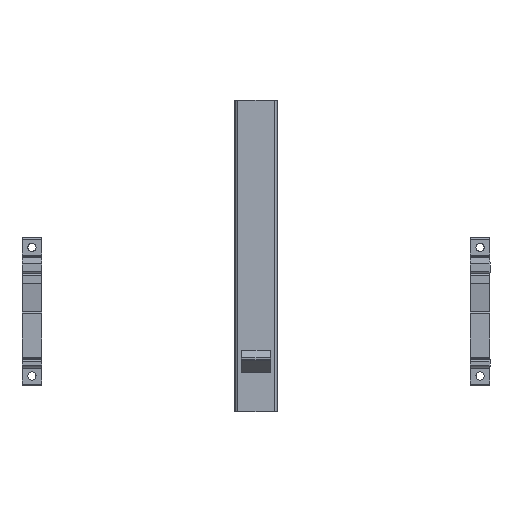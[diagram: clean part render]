
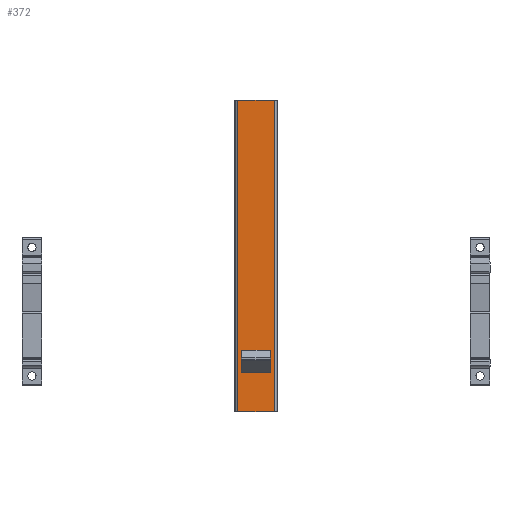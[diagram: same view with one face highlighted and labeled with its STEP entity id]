
A CAD part, top view. The second image highlights one B-rep face of the part: STEP entity #372.
In plain terms, the highlighted planar face has unit normal (0, 0, 1).
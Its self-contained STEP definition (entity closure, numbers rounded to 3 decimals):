
#33 = DIRECTION ( 'NONE',  ( 0., -1., 0. ) ) ;
#60 = CARTESIAN_POINT ( 'NONE',  ( -6.856, 125.863, 5.4 ) ) ;
#134 = VECTOR ( 'NONE', #3908, 1000. ) ;
#150 = LINE ( 'NONE', #1840, #4252 ) ;
#285 = PLANE ( 'NONE',  #4249 ) ;
#363 = VECTOR ( 'NONE', #3379, 1000. ) ;
#372 = ADVANCED_FACE ( 'NONE', ( #2358, #2850 ), #285, .T. ) ;
#413 = LINE ( 'NONE', #2103, #3192 ) ;
#428 = ORIENTED_EDGE ( 'NONE', *, *, #1223, .F. ) ;
#530 = CARTESIAN_POINT ( 'NONE',  ( -5.5, 15.067, 5.4 ) ) ;
#567 = CARTESIAN_POINT ( 'NONE',  ( 6.856, 0., 5.4 ) ) ;
#593 = VERTEX_POINT ( 'NONE', #530 ) ;
#678 = EDGE_CURVE ( 'NONE', #3472, #2009, #150, .T. ) ;
#739 = DIRECTION ( 'NONE',  ( 0., 1., 0. ) ) ;
#761 = CARTESIAN_POINT ( 'NONE',  ( -8.15, 0., 5.4 ) ) ;
#793 = EDGE_LOOP ( 'NONE', ( #5091, #3428, #428, #1657 ) ) ;
#1136 = CARTESIAN_POINT ( 'NONE',  ( 5.5, 21.04, 5.4 ) ) ;
#1223 = EDGE_CURVE ( 'NONE', #3472, #593, #2208, .T. ) ;
#1281 = LINE ( 'NONE', #5055, #3977 ) ;
#1433 = DIRECTION ( 'NONE',  ( 1., 0., 0. ) ) ;
#1657 = ORIENTED_EDGE ( 'NONE', *, *, #678, .T. ) ;
#1807 = VERTEX_POINT ( 'NONE', #3426 ) ;
#1840 = CARTESIAN_POINT ( 'NONE',  ( 0., 21.04, 5.4 ) ) ;
#1913 = EDGE_CURVE ( 'NONE', #2895, #3343, #5122, .T. ) ;
#1983 = DIRECTION ( 'NONE',  ( 1., 0., 0. ) ) ;
#2009 = VERTEX_POINT ( 'NONE', #1136 ) ;
#2103 = CARTESIAN_POINT ( 'NONE',  ( -4., 15.067, 5.4 ) ) ;
#2208 = LINE ( 'NONE', #3997, #134 ) ;
#2317 = ORIENTED_EDGE ( 'NONE', *, *, #1913, .F. ) ;
#2341 = CARTESIAN_POINT ( 'NONE',  ( 6.856, 117.869, 5.4 ) ) ;
#2358 = FACE_OUTER_BOUND ( 'NONE', #3874, .T. ) ;
#2361 = ORIENTED_EDGE ( 'NONE', *, *, #3085, .F. ) ;
#2392 = VECTOR ( 'NONE', #739, 1000. ) ;
#2535 = DIRECTION ( 'NONE',  ( 0., 1., 0. ) ) ;
#2639 = DIRECTION ( 'NONE',  ( 1., 0., 0. ) ) ;
#2850 = FACE_BOUND ( 'NONE', #793, .T. ) ;
#2895 = VERTEX_POINT ( 'NONE', #3999 ) ;
#2983 = CARTESIAN_POINT ( 'NONE',  ( -5.5, 21.04, 5.4 ) ) ;
#3018 = CARTESIAN_POINT ( 'NONE',  ( -8.15, 117.869, 5.4 ) ) ;
#3035 = CARTESIAN_POINT ( 'NONE',  ( 5.5, 15.067, 5.4 ) ) ;
#3085 = EDGE_CURVE ( 'NONE', #1807, #3275, #5075, .T. ) ;
#3192 = VECTOR ( 'NONE', #3773, 1000. ) ;
#3275 = VERTEX_POINT ( 'NONE', #2341 ) ;
#3295 = LINE ( 'NONE', #4499, #2392 ) ;
#3343 = VERTEX_POINT ( 'NONE', #5010 ) ;
#3352 = VECTOR ( 'NONE', #33, 1000. ) ;
#3379 = DIRECTION ( 'NONE',  ( -1., 0., 0. ) ) ;
#3397 = EDGE_CURVE ( 'NONE', #4965, #2009, #3295, .T. ) ;
#3398 = ORIENTED_EDGE ( 'NONE', *, *, #3837, .T. ) ;
#3426 = CARTESIAN_POINT ( 'NONE',  ( -6.856, 117.869, 5.4 ) ) ;
#3428 = ORIENTED_EDGE ( 'NONE', *, *, #4193, .T. ) ;
#3472 = VERTEX_POINT ( 'NONE', #2983 ) ;
#3658 = ORIENTED_EDGE ( 'NONE', *, *, #4199, .T. ) ;
#3773 = DIRECTION ( 'NONE',  ( -1., 0., 0. ) ) ;
#3837 = EDGE_CURVE ( 'NONE', #1807, #3343, #5032, .T. ) ;
#3874 = EDGE_LOOP ( 'NONE', ( #2361, #3398, #2317, #3658 ) ) ;
#3908 = DIRECTION ( 'NONE',  ( 0., -1., 0. ) ) ;
#3977 = VECTOR ( 'NONE', #2535, 1000. ) ;
#3997 = CARTESIAN_POINT ( 'NONE',  ( -5.5, 21.04, 5.4 ) ) ;
#3999 = CARTESIAN_POINT ( 'NONE',  ( 6.856, 0., 5.4 ) ) ;
#4109 = DIRECTION ( 'NONE',  ( 0., 0., 1. ) ) ;
#4193 = EDGE_CURVE ( 'NONE', #4965, #593, #413, .T. ) ;
#4199 = EDGE_CURVE ( 'NONE', #2895, #3275, #1281, .T. ) ;
#4249 = AXIS2_PLACEMENT_3D ( 'NONE', #761, #4109, #1983 ) ;
#4252 = VECTOR ( 'NONE', #1433, 1000. ) ;
#4499 = CARTESIAN_POINT ( 'NONE',  ( 5.5, 15.067, 5.4 ) ) ;
#4765 = VECTOR ( 'NONE', #2639, 1000. ) ;
#4965 = VERTEX_POINT ( 'NONE', #3035 ) ;
#5010 = CARTESIAN_POINT ( 'NONE',  ( -6.856, 0., 5.4 ) ) ;
#5032 = LINE ( 'NONE', #60, #3352 ) ;
#5055 = CARTESIAN_POINT ( 'NONE',  ( 6.856, 0., 5.4 ) ) ;
#5075 = LINE ( 'NONE', #3018, #4765 ) ;
#5091 = ORIENTED_EDGE ( 'NONE', *, *, #3397, .F. ) ;
#5122 = LINE ( 'NONE', #567, #363 ) ;
